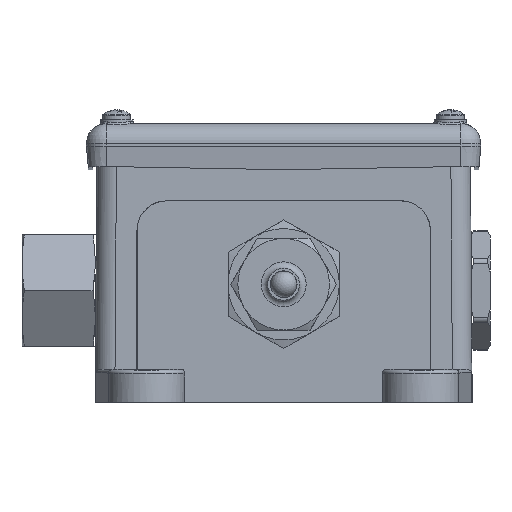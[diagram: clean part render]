
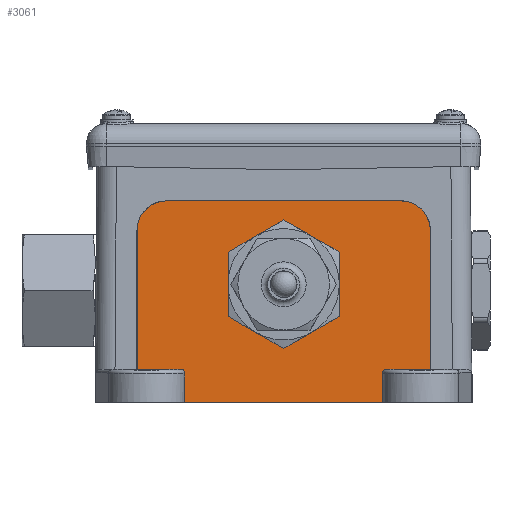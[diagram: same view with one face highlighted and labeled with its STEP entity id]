
A CAD part, front view. The second image highlights one B-rep face of the part: STEP entity #3061.
In plain terms, the highlighted planar face has unit normal (0, -1, 0).
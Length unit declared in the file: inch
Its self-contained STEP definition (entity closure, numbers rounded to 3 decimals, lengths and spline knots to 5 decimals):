
#203 = VERTEX_POINT ( 'NONE', #13218 ) ;
#485 = CARTESIAN_POINT ( 'NONE',  ( 0.95791, -1.48, 0.3125 ) ) ;
#487 = VERTEX_POINT ( 'NONE', #1329 ) ;
#514 = CARTESIAN_POINT ( 'NONE',  ( -0.94497, -1.48, 0.29956 ) ) ;
#604 = DIRECTION ( 'NONE',  ( 0., 0., -1. ) ) ;
#665 = AXIS2_PLACEMENT_3D ( 'NONE', #6560, #11546, #11247 ) ;
#947 = FACE_BOUND ( 'NONE', #9294, .T. ) ;
#1189 = CARTESIAN_POINT ( 'NONE',  ( 0., -1.48, 1.635 ) ) ;
#1329 = CARTESIAN_POINT ( 'NONE',  ( 1.4, -1.48, 0.3125 ) ) ;
#1403 = VERTEX_POINT ( 'NONE', #1988 ) ;
#1514 = AXIS2_PLACEMENT_3D ( 'NONE', #4235, #13762, #8796 ) ;
#1581 = ORIENTED_EDGE ( 'NONE', *, *, #15865, .F. ) ;
#1723 = DIRECTION ( 'NONE',  ( -1., 0., 0. ) ) ;
#1949 = CARTESIAN_POINT ( 'NONE',  ( 0.94497, -1.48, 0.28125 ) ) ;
#1988 = CARTESIAN_POINT ( 'NONE',  ( -0.97622, -1.48, 0.3125 ) ) ;
#1999 = EDGE_CURVE ( 'NONE', #15624, #15624, #7409, .T. ) ;
#2055 = CARTESIAN_POINT ( 'NONE',  ( 1.119, -1.48, 1.921 ) ) ;
#2218 = VERTEX_POINT ( 'NONE', #13022 ) ;
#2244 = VECTOR ( 'NONE', #4366, 39.37008 ) ;
#2375 = VERTEX_POINT ( 'NONE', #4839 ) ;
#2560 = EDGE_CURVE ( 'NONE', #487, #4966, #9699, .T. ) ;
#2740 = DIRECTION ( 'NONE',  ( 0., 1., 0. ) ) ;
#3001 = CIRCLE ( 'NONE', #19746, 0.281 ) ;
#3061 = ADVANCED_FACE ( 'NONE', ( #947, #5787 ), #7332, .F. ) ;
#3179 = CARTESIAN_POINT ( 'NONE',  ( -1.119, -1.48, 1.64 ) ) ;
#3642 = EDGE_LOOP ( 'NONE', ( #1581, #9318, #14181, #19542, #8484, #15958, #11904, #8376, #13252, #14077, #18617, #13947 ) ) ;
#3783 = EDGE_CURVE ( 'NONE', #2218, #4479, #4481, .T. ) ;
#4089 = DIRECTION ( 'NONE',  ( 1., 0., 0. ) ) ;
#4099 = AXIS2_PLACEMENT_3D ( 'NONE', #11936, #2740, #19618 ) ;
#4235 = CARTESIAN_POINT ( 'NONE',  ( 1.119, -1.48, 1.64 ) ) ;
#4337 = EDGE_CURVE ( 'NONE', #1403, #4479, #19522, .T. ) ;
#4366 = DIRECTION ( 'NONE',  ( 1., 0., 0. ) ) ;
#4403 = LINE ( 'NONE', #9276, #5303 ) ;
#4479 = VERTEX_POINT ( 'NONE', #10421 ) ;
#4481 = LINE ( 'NONE', #12549, #20272 ) ;
#4839 = CARTESIAN_POINT ( 'NONE',  ( 1.119, -1.48, 1.921 ) ) ;
#4966 = VERTEX_POINT ( 'NONE', #8720 ) ;
#5030 = DIRECTION ( 'NONE',  ( -1., 0., 0. ) ) ;
#5228 = CARTESIAN_POINT ( 'NONE',  ( 1.4, -1.48, 0. ) ) ;
#5250 = CARTESIAN_POINT ( 'NONE',  ( -0.97622, -1.48, 0.3125 ) ) ;
#5303 = VECTOR ( 'NONE', #4089, 39.37008 ) ;
#5436 = VECTOR ( 'NONE', #8342, 39.37008 ) ;
#5787 = FACE_OUTER_BOUND ( 'NONE', #3642, .T. ) ;
#6290 = CARTESIAN_POINT ( 'NONE',  ( 0.94497, -1.48, 0. ) ) ;
#6410 = EDGE_CURVE ( 'NONE', #2375, #18123, #19536, .T. ) ;
#6560 = CARTESIAN_POINT ( 'NONE',  ( 1.119, -1.48, 1.64 ) ) ;
#6589 = CARTESIAN_POINT ( 'NONE',  ( -1.4, -1.48, 0. ) ) ;
#6738 = EDGE_CURVE ( 'NONE', #2218, #16596, #12132, .T. ) ;
#6799 = DIRECTION ( 'NONE',  ( 0., 0., -1. ) ) ;
#7332 = PLANE ( 'NONE',  #1514 ) ;
#7409 = CIRCLE ( 'NONE', #4099, 0.51 ) ;
#8007 = VECTOR ( 'NONE', #6799, 39.37008 ) ;
#8063 = CARTESIAN_POINT ( 'NONE',  ( -0.94497, -1.48, 0.28125 ) ) ;
#8167 = CARTESIAN_POINT ( 'NONE',  ( -0.95791, -1.48, 0.3125 ) ) ;
#8276 = VECTOR ( 'NONE', #604, 39.37008 ) ;
#8320 = VERTEX_POINT ( 'NONE', #14248 ) ;
#8342 = DIRECTION ( 'NONE',  ( 0., 0., 1. ) ) ;
#8376 = ORIENTED_EDGE ( 'NONE', *, *, #4337, .T. ) ;
#8425 = EDGE_CURVE ( 'NONE', #8320, #20053, #9024, .T. ) ;
#8484 = ORIENTED_EDGE ( 'NONE', *, *, #15794, .T. ) ;
#8720 = CARTESIAN_POINT ( 'NONE',  ( 1.4, -1.48, 1.64 ) ) ;
#8796 = DIRECTION ( 'NONE',  ( 0., 0., 1. ) ) ;
#8990 = CARTESIAN_POINT ( 'NONE',  ( -1.119, -1.48, 1.921 ) ) ;
#9024 =( BOUNDED_CURVE ( )  B_SPLINE_CURVE ( 3, ( #1949, #16644, #485, #19332 ),
 .UNSPECIFIED., .F., .F. ) 
 B_SPLINE_CURVE_WITH_KNOTS ( ( 4, 4 ),
 ( 4.71239, 6.28319 ),
 .UNSPECIFIED. ) 
 CURVE ( )  GEOMETRIC_REPRESENTATION_ITEM ( )  RATIONAL_B_SPLINE_CURVE ( ( 1., 0.805, 0.805, 1. ) ) 
 REPRESENTATION_ITEM ( '' )  );
#9276 = CARTESIAN_POINT ( 'NONE',  ( 1.119, -1.48, 0.3125 ) ) ;
#9294 = EDGE_LOOP ( 'NONE', ( #9755 ) ) ;
#9318 = ORIENTED_EDGE ( 'NONE', *, *, #2560, .T. ) ;
#9699 = LINE ( 'NONE', #5228, #5436 ) ;
#9755 = ORIENTED_EDGE ( 'NONE', *, *, #1999, .T. ) ;
#10421 = CARTESIAN_POINT ( 'NONE',  ( -0.94497, -1.48, 0.28125 ) ) ;
#10703 = CARTESIAN_POINT ( 'NONE',  ( -1.4, -1.48, 0.3125 ) ) ;
#10708 = DIRECTION ( 'NONE',  ( 0., 0., -1. ) ) ;
#10920 = DIRECTION ( 'NONE',  ( 0., -1., 0. ) ) ;
#11091 = EDGE_CURVE ( 'NONE', #203, #18714, #19459, .T. ) ;
#11247 = DIRECTION ( 'NONE',  ( 0., 0., 1. ) ) ;
#11546 = DIRECTION ( 'NONE',  ( 0., -1., 0. ) ) ;
#11576 = CIRCLE ( 'NONE', #665, 0.281 ) ;
#11904 = ORIENTED_EDGE ( 'NONE', *, *, #16868, .T. ) ;
#11936 = CARTESIAN_POINT ( 'NONE',  ( 0., -1.48, 1.125 ) ) ;
#12132 = LINE ( 'NONE', #13466, #2244 ) ;
#12549 = CARTESIAN_POINT ( 'NONE',  ( -0.94497, -1.48, 1.64 ) ) ;
#12771 = LINE ( 'NONE', #17483, #15852 ) ;
#13022 = CARTESIAN_POINT ( 'NONE',  ( -0.94497, -1.48, 0. ) ) ;
#13218 = CARTESIAN_POINT ( 'NONE',  ( -1.4, -1.48, 1.64 ) ) ;
#13252 = ORIENTED_EDGE ( 'NONE', *, *, #3783, .F. ) ;
#13466 = CARTESIAN_POINT ( 'NONE',  ( 1.4, -1.48, 0. ) ) ;
#13762 = DIRECTION ( 'NONE',  ( 0., 1., 0. ) ) ;
#13947 = ORIENTED_EDGE ( 'NONE', *, *, #8425, .T. ) ;
#14008 = DIRECTION ( 'NONE',  ( 0., 0., 1. ) ) ;
#14077 = ORIENTED_EDGE ( 'NONE', *, *, #6738, .T. ) ;
#14181 = ORIENTED_EDGE ( 'NONE', *, *, #15656, .T. ) ;
#14248 = CARTESIAN_POINT ( 'NONE',  ( 0.94497, -1.48, 0.28125 ) ) ;
#14757 = LINE ( 'NONE', #16189, #8276 ) ;
#14760 = CARTESIAN_POINT ( 'NONE',  ( 0.97622, -1.48, 0.3125 ) ) ;
#15624 = VERTEX_POINT ( 'NONE', #1189 ) ;
#15656 = EDGE_CURVE ( 'NONE', #4966, #2375, #11576, .T. ) ;
#15753 = VECTOR ( 'NONE', #5030, 39.37008 ) ;
#15794 = EDGE_CURVE ( 'NONE', #18123, #203, #3001, .T. ) ;
#15852 = VECTOR ( 'NONE', #1723, 39.37008 ) ;
#15865 = EDGE_CURVE ( 'NONE', #487, #20053, #12771, .T. ) ;
#15958 = ORIENTED_EDGE ( 'NONE', *, *, #11091, .T. ) ;
#16189 = CARTESIAN_POINT ( 'NONE',  ( 0.94497, -1.48, 1.64 ) ) ;
#16287 = EDGE_CURVE ( 'NONE', #8320, #16596, #14757, .T. ) ;
#16596 = VERTEX_POINT ( 'NONE', #6290 ) ;
#16644 = CARTESIAN_POINT ( 'NONE',  ( 0.94497, -1.48, 0.29956 ) ) ;
#16868 = EDGE_CURVE ( 'NONE', #18714, #1403, #4403, .T. ) ;
#17483 = CARTESIAN_POINT ( 'NONE',  ( 1.119, -1.48, 0.3125 ) ) ;
#18123 = VERTEX_POINT ( 'NONE', #8990 ) ;
#18617 = ORIENTED_EDGE ( 'NONE', *, *, #16287, .F. ) ;
#18714 = VERTEX_POINT ( 'NONE', #10703 ) ;
#19332 = CARTESIAN_POINT ( 'NONE',  ( 0.97622, -1.48, 0.3125 ) ) ;
#19459 = LINE ( 'NONE', #6589, #8007 ) ;
#19522 =( BOUNDED_CURVE ( )  B_SPLINE_CURVE ( 3, ( #5250, #8167, #514, #8063 ),
 .UNSPECIFIED., .F., .F. ) 
 B_SPLINE_CURVE_WITH_KNOTS ( ( 4, 4 ),
 ( 3.14159, 4.71239 ),
 .UNSPECIFIED. ) 
 CURVE ( )  GEOMETRIC_REPRESENTATION_ITEM ( )  RATIONAL_B_SPLINE_CURVE ( ( 1., 0.805, 0.805, 1. ) ) 
 REPRESENTATION_ITEM ( '' )  );
#19536 = LINE ( 'NONE', #2055, #15753 ) ;
#19542 = ORIENTED_EDGE ( 'NONE', *, *, #6410, .T. ) ;
#19618 = DIRECTION ( 'NONE',  ( 0., 0., 1. ) ) ;
#19746 = AXIS2_PLACEMENT_3D ( 'NONE', #3179, #10920, #10708 ) ;
#20053 = VERTEX_POINT ( 'NONE', #14760 ) ;
#20272 = VECTOR ( 'NONE', #14008, 39.37008 ) ;
